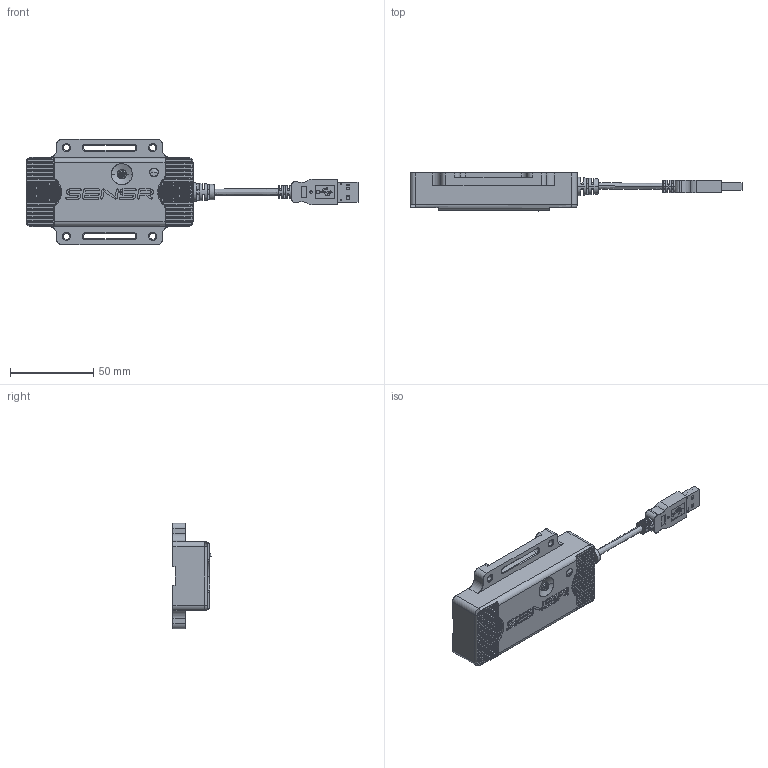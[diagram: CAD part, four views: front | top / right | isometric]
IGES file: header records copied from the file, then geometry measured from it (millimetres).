
Start section: SolidWorks IGES file using analytic representation for surfaces
Global section: file name: C:\Documents and Settings\aniewoehner\Desktop\GP2.IGS; native system: SolidWorks 2006 by SolidWorks Corporation; preprocessor: SolidWorks 2006 by SolidWorks Corporation; author: aniewoehner; date: 110311.091140; units: inch
Bounding box: 199.82 x 22.97 x 63.5 mm (x, y, z)
Surface area: 24304.1 mm2 (no closed solid volume)
Topology: 0 solids, 0 shells, 715 faces, 8204 edges, 8107 vertices
Faces by surface type: bspline 415, revolution 300
